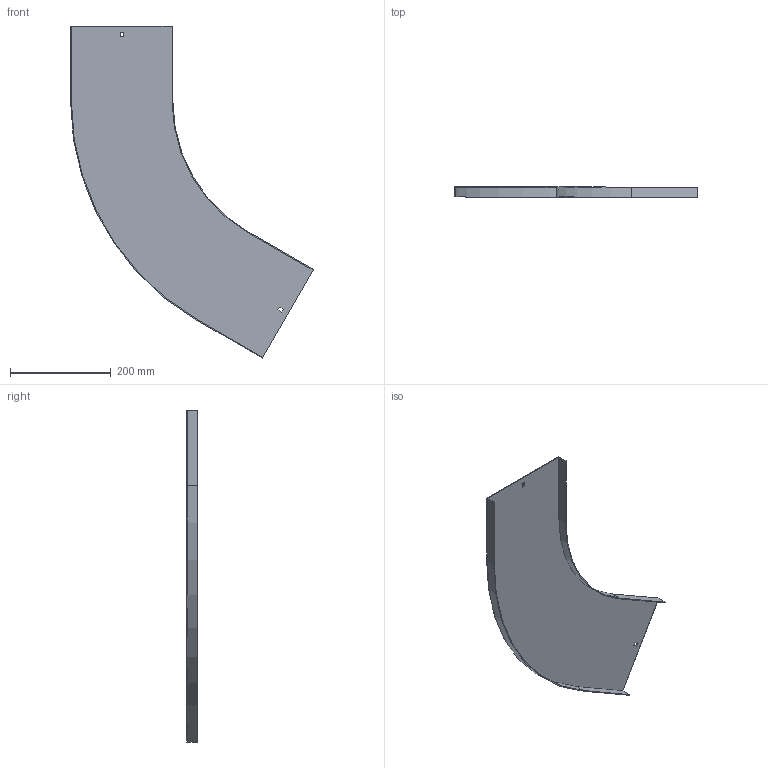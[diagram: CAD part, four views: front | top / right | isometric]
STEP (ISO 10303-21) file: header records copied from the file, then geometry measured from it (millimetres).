
FILE_DESCRIPTION (( 'STEP AP214' ), '1' );
FILE_NAME ('A2_13N3R200.step', '2025-02-21T10:52:05', ( '' ), ( '' ), 'SwSTEP 2.0', 'SolidWorks 2023', '' );
FILE_SCHEMA (( 'AUTOMOTIVE_DESIGN' ));
Length unit declared in the file: millimetre
Products named in the file (1): A2_13N3R200
Bounding box: 482.15 x 20 x 659.31 mm (x, y, z)
Volume: 258620.9 mm3; surface area: 347797.6 mm2
Topology: 1 solids, 1 shells, 26 faces, 72 edges, 48 vertices
Faces by surface type: plane 22, cylinder 4
Entity records: 855 total; most frequent: CARTESIAN_POINT 147, ORIENTED_EDGE 144, DIRECTION 134, EDGE_CURVE 72, LINE 64, VECTOR 64, VERTEX_POINT 48, AXIS2_PLACEMENT_3D 35
